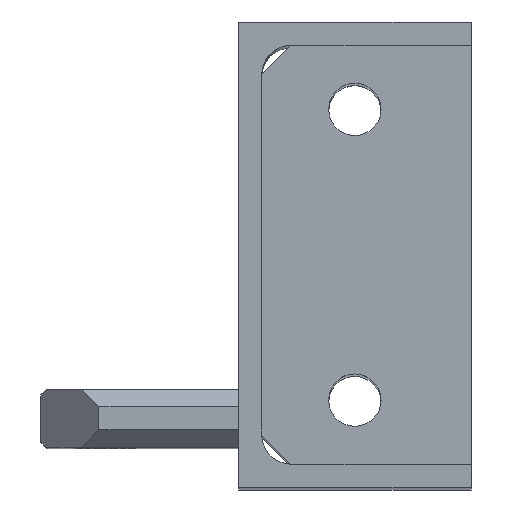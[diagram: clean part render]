
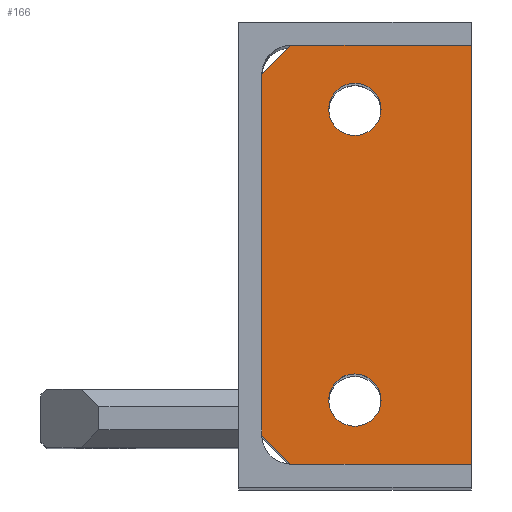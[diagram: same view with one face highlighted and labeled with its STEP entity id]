
A CAD part, top view. The second image highlights one B-rep face of the part: STEP entity #166.
In plain terms, the highlighted planar face has unit normal (0, 0, 1).
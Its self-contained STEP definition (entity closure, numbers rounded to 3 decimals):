
#14 = VECTOR ( 'NONE', #562, 1000. ) ;
#40 = ORIENTED_EDGE ( 'NONE', *, *, #2290, .T. ) ;
#49 = VERTEX_POINT ( 'NONE', #1916 ) ;
#146 = CIRCLE ( 'NONE', #469, 4.5 ) ;
#166 = ADVANCED_FACE ( 'NONE', ( #1172, #1559, #745 ), #964, .F. ) ;
#252 = EDGE_LOOP ( 'NONE', ( #2485, #1003 ) ) ;
#297 = EDGE_CURVE ( 'NONE', #787, #1560, #841, .T. ) ;
#353 = VECTOR ( 'NONE', #1212, 1000. ) ;
#356 = DIRECTION ( 'NONE',  ( 1., 0., 0. ) ) ;
#365 = DIRECTION ( 'NONE',  ( 1., 0., 0. ) ) ;
#369 = VERTEX_POINT ( 'NONE', #2468 ) ;
#400 = CIRCLE ( 'NONE', #929, 4.5 ) ;
#404 = CARTESIAN_POINT ( 'NONE',  ( 0., 0., 5. ) ) ;
#450 = LINE ( 'NONE', #2185, #353 ) ;
#469 = AXIS2_PLACEMENT_3D ( 'NONE', #2506, #741, #365 ) ;
#536 = CARTESIAN_POINT ( 'NONE',  ( 56.5, 20., 5. ) ) ;
#562 = DIRECTION ( 'NONE',  ( 1., 0., 0. ) ) ;
#571 = LINE ( 'NONE', #1150, #14 ) ;
#611 = EDGE_CURVE ( 'NONE', #1654, #1887, #146, .T. ) ;
#619 = ORIENTED_EDGE ( 'NONE', *, *, #2507, .F. ) ;
#642 = EDGE_CURVE ( 'NONE', #369, #787, #450, .T. ) ;
#652 = ORIENTED_EDGE ( 'NONE', *, *, #1715, .T. ) ;
#666 = CARTESIAN_POINT ( 'NONE',  ( 15.5, 20., 5. ) ) ;
#678 = AXIS2_PLACEMENT_3D ( 'NONE', #1714, #2324, #356 ) ;
#688 = ORIENTED_EDGE ( 'NONE', *, *, #642, .T. ) ;
#707 = VECTOR ( 'NONE', #852, 1000. ) ;
#741 = DIRECTION ( 'NONE',  ( 0., 0., 1. ) ) ;
#745 = FACE_OUTER_BOUND ( 'NONE', #2255, .T. ) ;
#787 = VERTEX_POINT ( 'NONE', #1884 ) ;
#806 = DIRECTION ( 'NONE',  ( 0., 0., -1. ) ) ;
#841 = LINE ( 'NONE', #1058, #1619 ) ;
#852 = DIRECTION ( 'NONE',  ( -0.707, -0.707, 0. ) ) ;
#866 = CARTESIAN_POINT ( 'NONE',  ( 72., 0., 5. ) ) ;
#929 = AXIS2_PLACEMENT_3D ( 'NONE', #1141, #976, #1153 ) ;
#948 = VECTOR ( 'NONE', #1106, 1000. ) ;
#964 = PLANE ( 'NONE',  #1737 ) ;
#976 = DIRECTION ( 'NONE',  ( 0., 0., 1. ) ) ;
#1003 = ORIENTED_EDGE ( 'NONE', *, *, #1022, .F. ) ;
#1022 = EDGE_CURVE ( 'NONE', #1800, #2247, #1789, .T. ) ;
#1031 = DIRECTION ( 'NONE',  ( 0., 1., 0. ) ) ;
#1057 = LINE ( 'NONE', #2394, #1407 ) ;
#1058 = CARTESIAN_POINT ( 'NONE',  ( 0., 36., 5. ) ) ;
#1091 = ORIENTED_EDGE ( 'NONE', *, *, #2275, .T. ) ;
#1106 = DIRECTION ( 'NONE',  ( 0., -1., 0. ) ) ;
#1112 = ORIENTED_EDGE ( 'NONE', *, *, #2333, .T. ) ;
#1118 = CARTESIAN_POINT ( 'NONE',  ( 0., 0., 5. ) ) ;
#1128 = CIRCLE ( 'NONE', #1462, 4.5 ) ;
#1141 = CARTESIAN_POINT ( 'NONE',  ( 11., 20., 5. ) ) ;
#1150 = CARTESIAN_POINT ( 'NONE',  ( 0., 0., 5. ) ) ;
#1153 = DIRECTION ( 'NONE',  ( 1., 0., 0. ) ) ;
#1172 = FACE_BOUND ( 'NONE', #2219, .T. ) ;
#1212 = DIRECTION ( 'NONE',  ( -0.707, 0.707, 0. ) ) ;
#1246 = CARTESIAN_POINT ( 'NONE',  ( 0., 31., 5. ) ) ;
#1327 = EDGE_CURVE ( 'NONE', #2247, #1800, #1128, .T. ) ;
#1396 = DIRECTION ( 'NONE',  ( 1., 0., 0. ) ) ;
#1407 = VECTOR ( 'NONE', #1031, 1000. ) ;
#1443 = LINE ( 'NONE', #1118, #948 ) ;
#1462 = AXIS2_PLACEMENT_3D ( 'NONE', #2167, #1594, #1396 ) ;
#1465 = CARTESIAN_POINT ( 'NONE',  ( 6.5, 20., 5. ) ) ;
#1559 = FACE_BOUND ( 'NONE', #252, .T. ) ;
#1560 = VERTEX_POINT ( 'NONE', #2442 ) ;
#1594 = DIRECTION ( 'NONE',  ( 0., 0., 1. ) ) ;
#1611 = CARTESIAN_POINT ( 'NONE',  ( 0., 0., 5. ) ) ;
#1619 = VECTOR ( 'NONE', #2395, 1000. ) ;
#1654 = VERTEX_POINT ( 'NONE', #666 ) ;
#1714 = CARTESIAN_POINT ( 'NONE',  ( 61., 20., 5. ) ) ;
#1715 = EDGE_CURVE ( 'NONE', #2280, #1853, #571, .T. ) ;
#1737 = AXIS2_PLACEMENT_3D ( 'NONE', #404, #806, #2525 ) ;
#1789 = CIRCLE ( 'NONE', #678, 4.5 ) ;
#1799 = ORIENTED_EDGE ( 'NONE', *, *, #611, .F. ) ;
#1800 = VERTEX_POINT ( 'NONE', #536 ) ;
#1848 = CARTESIAN_POINT ( 'NONE',  ( 65.5, 20., 5. ) ) ;
#1853 = VERTEX_POINT ( 'NONE', #866 ) ;
#1884 = CARTESIAN_POINT ( 'NONE',  ( 67., 36., 5. ) ) ;
#1887 = VERTEX_POINT ( 'NONE', #1465 ) ;
#1916 = CARTESIAN_POINT ( 'NONE',  ( 0., 31., 5. ) ) ;
#2167 = CARTESIAN_POINT ( 'NONE',  ( 61., 20., 5. ) ) ;
#2185 = CARTESIAN_POINT ( 'NONE',  ( 67., 36., 5. ) ) ;
#2219 = EDGE_LOOP ( 'NONE', ( #1799, #619 ) ) ;
#2247 = VERTEX_POINT ( 'NONE', #1848 ) ;
#2255 = EDGE_LOOP ( 'NONE', ( #40, #688, #2344, #1091, #1112, #652 ) ) ;
#2275 = EDGE_CURVE ( 'NONE', #1560, #49, #2407, .T. ) ;
#2280 = VERTEX_POINT ( 'NONE', #1611 ) ;
#2290 = EDGE_CURVE ( 'NONE', #1853, #369, #1057, .T. ) ;
#2324 = DIRECTION ( 'NONE',  ( 0., 0., 1. ) ) ;
#2333 = EDGE_CURVE ( 'NONE', #49, #2280, #1443, .T. ) ;
#2344 = ORIENTED_EDGE ( 'NONE', *, *, #297, .T. ) ;
#2394 = CARTESIAN_POINT ( 'NONE',  ( 72., 0., 5. ) ) ;
#2395 = DIRECTION ( 'NONE',  ( -1., 0., 0. ) ) ;
#2407 = LINE ( 'NONE', #1246, #707 ) ;
#2442 = CARTESIAN_POINT ( 'NONE',  ( 5., 36., 5. ) ) ;
#2468 = CARTESIAN_POINT ( 'NONE',  ( 72., 31., 5. ) ) ;
#2485 = ORIENTED_EDGE ( 'NONE', *, *, #1327, .F. ) ;
#2506 = CARTESIAN_POINT ( 'NONE',  ( 11., 20., 5. ) ) ;
#2507 = EDGE_CURVE ( 'NONE', #1887, #1654, #400, .T. ) ;
#2525 = DIRECTION ( 'NONE',  ( -1., 0., 0. ) ) ;
